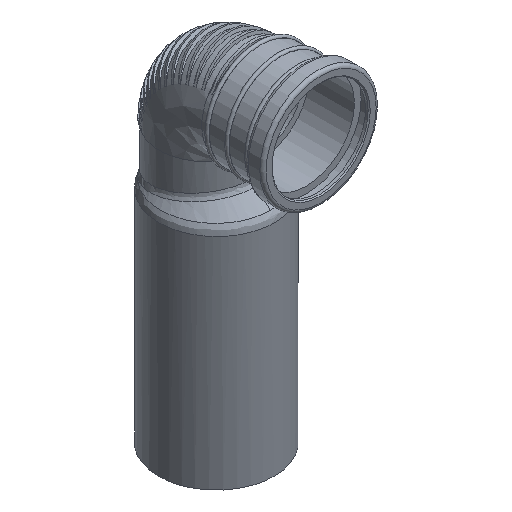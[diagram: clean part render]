
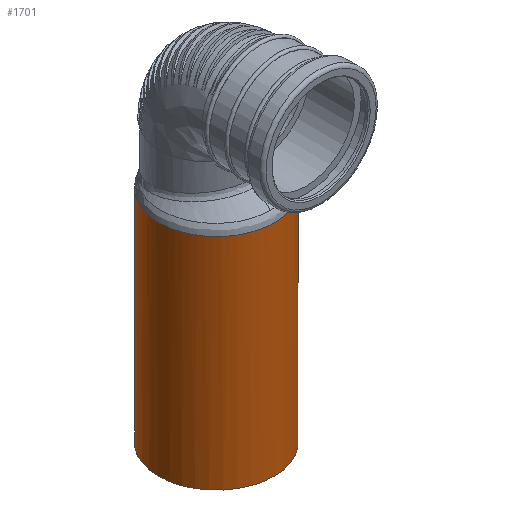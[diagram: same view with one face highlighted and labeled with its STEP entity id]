
A CAD part, isometric view. The second image highlights one B-rep face of the part: STEP entity #1701.
In plain terms, the highlighted cylindrical face has radius 55.2 mm (diameter 110.4 mm), a full revolution.
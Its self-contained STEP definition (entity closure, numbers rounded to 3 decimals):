
#27=FACE_BOUND($,#325,.T.);
#229=FACE_OUTER_BOUND($,#324,.T.);
#324=EDGE_LOOP($,(#1315));
#325=EDGE_LOOP($,(#1316));
#477=CIRCLE($,#1874,55.2);
#623=B_SPLINE_CURVE_WITH_KNOTS($,3,(#3788,#3789,#3790,#3791,#3792,#3793,
#3794,#3795,#3796,#3797,#3798,#3799,#3800,#3801,#3802,#3803,#3804,#3805,
#3806,#3807,#3808,#3809,#3810,#3811),.UNSPECIFIED.,.T.,.F.,(4,1,1,1,1,1,
1,1,1,1,1,1,1,1,1,1,1,1,1,1,1,4),(0.,2.484,4.969,
6.625,8.281,9.938,11.594,13.25,
14.907,15.735,16.563,17.391,18.219,
19.047,19.875,21.118,22.36,24.844,
27.329,29.813,32.298,34.782),
 .UNSPECIFIED.);
#761=VERTEX_POINT($,#3786);
#762=VERTEX_POINT($,#3905);
#990=EDGE_CURVE($,#761,#761,#623,.T.);
#994=EDGE_CURVE($,#762,#762,#477,.T.);
#1315=ORIENTED_EDGE($,*,*,#994,.F.);
#1316=ORIENTED_EDGE($,*,*,#990,.F.);
#1518=CYLINDRICAL_SURFACE($,#1873,55.2);
#1701=ADVANCED_FACE($,(#229,#27),#1518,.T.);
#1873=AXIS2_PLACEMENT_3D($,#3904,#2216,#2217);
#1874=AXIS2_PLACEMENT_3D($,#3906,#2218,#2219);
#2216=DIRECTION('center_axis',(0.,0.,1.));
#2217=DIRECTION('ref_axis',(-1.,0.,0.));
#2218=DIRECTION('center_axis',(0.,0.,-1.));
#2219=DIRECTION('ref_axis',(-1.,0.,0.));
#3786=CARTESIAN_POINT('',(0.,-55.2,209.493));
#3788=CARTESIAN_POINT('Ctrl Pts',(0.,-55.202,
209.493));
#3789=CARTESIAN_POINT('Ctrl Pts',(8.261,-55.202,209.493));
#3790=CARTESIAN_POINT('Ctrl Pts',(24.787,-51.432,209.506));
#3791=CARTESIAN_POINT('Ctrl Pts',(42.439,-37.331,209.56));
#3792=CARTESIAN_POINT('Ctrl Pts',(52.17,-20.434,209.65));
#3793=CARTESIAN_POINT('Ctrl Pts',(55.878,-4.143,209.768));
#3794=CARTESIAN_POINT('Ctrl Pts',(54.615,12.52,209.951));
#3795=CARTESIAN_POINT('Ctrl Pts',(48.495,28.065,210.241));
#3796=CARTESIAN_POINT('Ctrl Pts',(38.068,41.112,210.704));
#3797=CARTESIAN_POINT('Ctrl Pts',(26.573,48.931,211.337));
#3798=CARTESIAN_POINT('Ctrl Pts',(16.317,52.947,211.998));
#3799=CARTESIAN_POINT('Ctrl Pts',(8.261,54.787,212.47));
#3800=CARTESIAN_POINT('Ctrl Pts',(0.,55.407,
212.68));
#3801=CARTESIAN_POINT('Ctrl Pts',(-8.262,54.787,212.471));
#3802=CARTESIAN_POINT('Ctrl Pts',(-16.317,52.947,211.997));
#3803=CARTESIAN_POINT('Ctrl Pts',(-25.292,49.432,211.422));
#3804=CARTESIAN_POINT('Ctrl Pts',(-34.663,43.552,210.884));
#3805=CARTESIAN_POINT('Ctrl Pts',(-46.433,31.823,210.321));
#3806=CARTESIAN_POINT('Ctrl Pts',(-55.648,12.759,209.931));
#3807=CARTESIAN_POINT('Ctrl Pts',(-55.665,-12.665,209.692));
#3808=CARTESIAN_POINT('Ctrl Pts',(-44.654,-35.573,209.567));
#3809=CARTESIAN_POINT('Ctrl Pts',(-24.78,-51.431,209.506));
#3810=CARTESIAN_POINT('Ctrl Pts',(-8.261,-55.202,209.493));
#3811=CARTESIAN_POINT('Ctrl Pts',(0.,-55.202,
209.493));
#3904=CARTESIAN_POINT('Origin',(0.,0.,0.));
#3905=CARTESIAN_POINT('',(55.2,0.,0.));
#3906=CARTESIAN_POINT('Origin',(0.,0.,0.));
